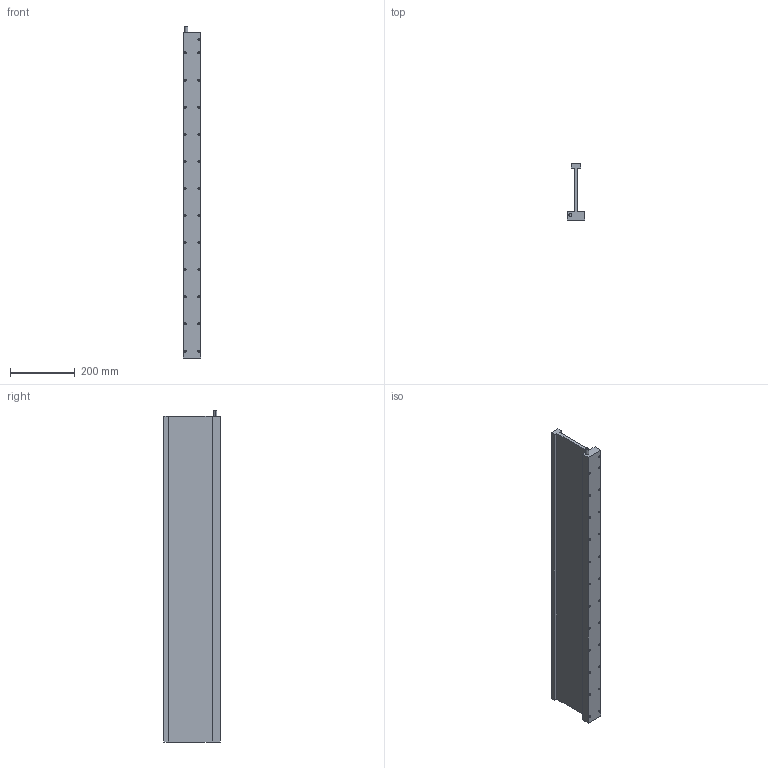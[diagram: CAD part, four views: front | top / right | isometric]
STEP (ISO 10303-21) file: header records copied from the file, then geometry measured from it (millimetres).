
FILE_DESCRIPTION (( 'STEP AP214' ), '1' );
FILE_NAME ('JKA6-6.STEP', '2025-09-05T12:54:01', ( '' ), ( '' ), 'SwSTEP 2.0', 'SolidWorks 2016', '' );
FILE_SCHEMA (( 'AUTOMOTIVE_DESIGN' ));
Length unit declared in the file: millimetre
Products named in the file (1): JKA6-6
Bounding box: 55.1 x 175.5 x 1029 mm (x, y, z)
Volume: 3316546.7 mm3; surface area: 514206.9 mm2
Topology: 1 solids, 1 shells, 167 faces, 392 edges, 203 vertices
Faces by surface type: cone 100, cylinder 52, plane 15
Entity records: 4934 total; most frequent: DIRECTION 832, CARTESIAN_POINT 713, ORIENTED_EDGE 684, EDGE_CURVE 342, AXIS2_PLACEMENT_3D 322, VERTEX_POINT 203, EDGE_LOOP 193, LINE 188
